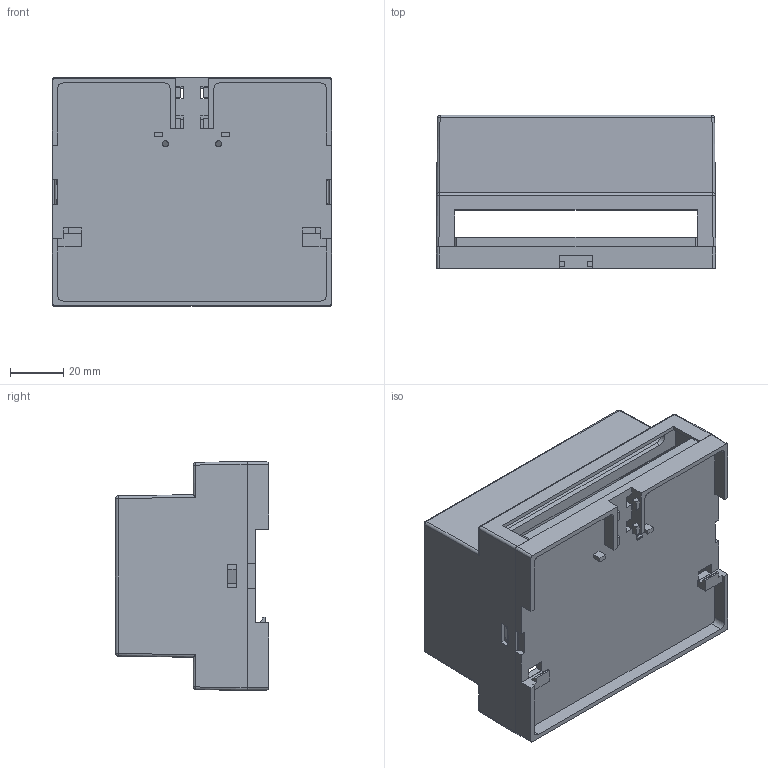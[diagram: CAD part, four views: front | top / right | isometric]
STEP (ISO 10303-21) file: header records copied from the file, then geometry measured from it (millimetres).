
FILE_DESCRIPTION (( 'STEP AP203' ), '1' );
FILE_NAME ('PT106-C.STEP', '2022-02-01T11:25:48', ( '' ), ( '' ), 'SwSTEP 2.0', 'SolidWorks 2021', '' );
FILE_SCHEMA (( 'CONFIG_CONTROL_DESIGN' ));
Length unit declared in the file: millimetre
Products named in the file (4): PT106-C
Assembly tree (3 placements, depth 2):
  PT106-C
    PT106-C
    PT106-C
    PT106-C
Bounding box: 105.1 x 57.6 x 86.1 mm (x, y, z)
Volume: 71994.5 mm3; surface area: 76186.7 mm2
Topology: 3 solids, 3 shells, 477 faces, 1338 edges, 872 vertices
Faces by surface type: plane 341, cylinder 50, cone 40, bspline 38, sphere 8
Entity records: 16208 total; most frequent: CARTESIAN_POINT 3657, ORIENTED_EDGE 2660, DIRECTION 2332, EDGE_CURVE 1330, LINE 1070, VECTOR 1070, VERTEX_POINT 872, AXIS2_PLACEMENT_3D 631
